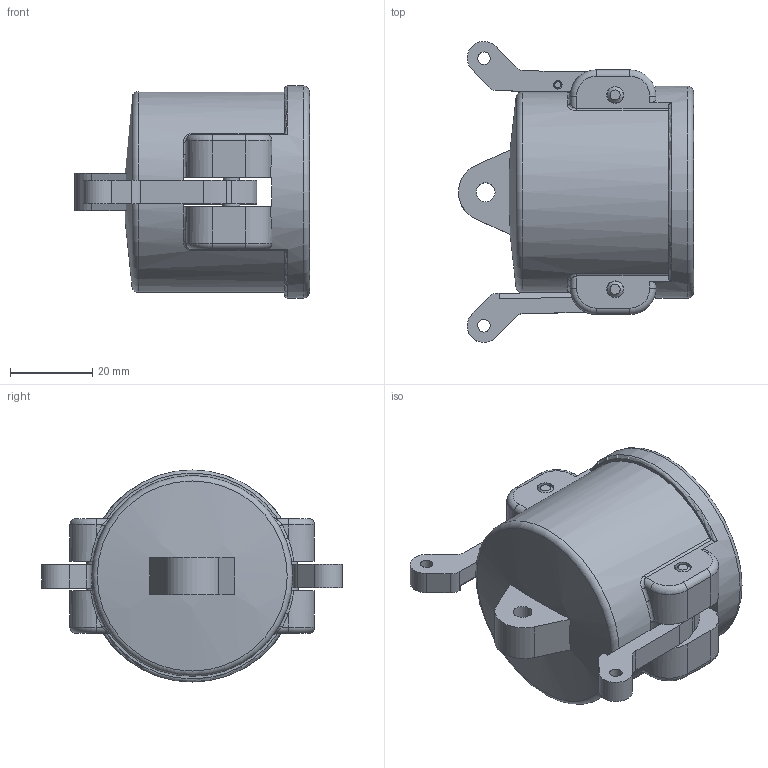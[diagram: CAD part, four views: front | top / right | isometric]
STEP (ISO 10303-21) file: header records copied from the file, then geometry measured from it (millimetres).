
FILE_DESCRIPTION(/* description */ ('Alibre Inc.'),/* implementation_level */ '2;1');
FILE_NAME(/* name */ 'export0',/* time_stamp */ '2016-03-21T10:16:14-04:00',/* author */ (''),/* organization */ (''),/* preprocessor_version */ 'ST-DEVELOPER v14',/* originating_system */ 'Alibre',/* authorisation */ '');
FILE_SCHEMA (('CONFIG_CONTROL_DESIGN'));
Length unit declared in the file: centimetre
Products named in the file (5): ID_1
Bounding box: 57.15 x 73.15 x 51.56 mm (x, y, z)
Volume: 53008.1 mm3; surface area: 23373.7 mm2
Topology: 6 solids, 6 shells, 154 faces, 389 edges, 249 vertices
Faces by surface type: plane 68, cylinder 54, torus 17, bspline 10, cone 4, sphere 1
Full cylindrical faces by diameter (mm): 3.048 x2, 3.962 x2, 4.064 x4, 4.216 x2, 4.242 x2, 4.572 x1, 26.924 x1, 38.1 x1, 39.624 x1, 40.386 x1, 48.768 x1, 51.562 x1
Entity records: 5205 total; most frequent: CARTESIAN_POINT 1815, ORIENTED_EDGE 596, DIRECTION 542, EDGE_CURVE 298, AXIS2_PLACEMENT_3D 240, VERTEX_POINT 200, EDGE_LOOP 166, FACE_BOUND 166
